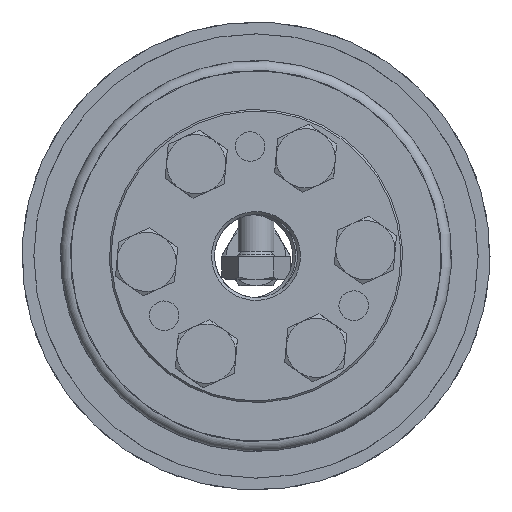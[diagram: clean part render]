
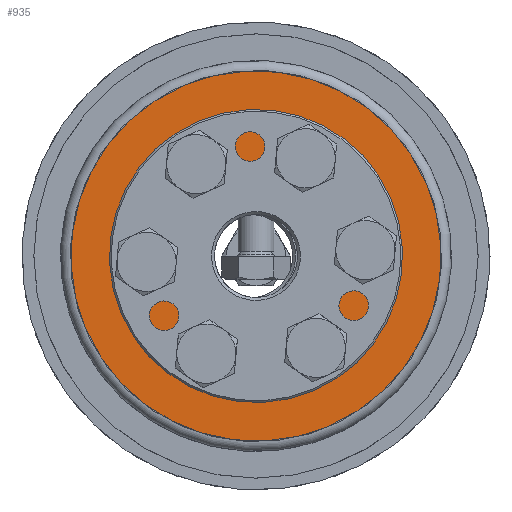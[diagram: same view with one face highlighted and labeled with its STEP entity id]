
A CAD part, left-side view. The second image highlights one B-rep face of the part: STEP entity #935.
In plain terms, the highlighted planar face has unit normal (-1, 0, 0) as drawn and (1, 0, 0) by its records, which use the part's own axes.
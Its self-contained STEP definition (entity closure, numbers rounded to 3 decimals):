
#935 = ADVANCED_FACE( 'NONE', ( #1453, #1454, #1455, #1456, #1457, #1458, #1459, #1460 ), #1461, .F. );
#1453 = FACE_OUTER_BOUND( '', #2082, .T. );
#1454 = FACE_BOUND( '', #2083, .T. );
#1455 = FACE_BOUND( '', #2084, .T. );
#1456 = FACE_BOUND( '', #2085, .T. );
#1457 = FACE_BOUND( '', #2086, .T. );
#1458 = FACE_BOUND( '', #2087, .T. );
#1459 = FACE_BOUND( '', #2088, .T. );
#1460 = FACE_BOUND( '', #2089, .T. );
#1461 = PLANE( '', #2090 );
#2082 = EDGE_LOOP( '', ( #2779 ) );
#2083 = EDGE_LOOP( '', ( #2780 ) );
#2084 = EDGE_LOOP( '', ( #2781 ) );
#2085 = EDGE_LOOP( '', ( #2782 ) );
#2086 = EDGE_LOOP( '', ( #2783 ) );
#2087 = EDGE_LOOP( '', ( #2784 ) );
#2088 = EDGE_LOOP( '', ( #2785 ) );
#2089 = EDGE_LOOP( '', ( #2786 ) );
#2090 = AXIS2_PLACEMENT_3D( '', #2787, #2788, #2789 );
#2779 = ORIENTED_EDGE( '', *, *, #3975, .F. );
#2780 = ORIENTED_EDGE( '', *, *, #3961, .F. );
#2781 = ORIENTED_EDGE( '', *, *, #3974, .T. );
#2782 = ORIENTED_EDGE( '', *, *, #3976, .F. );
#2783 = ORIENTED_EDGE( '', *, *, #3973, .F. );
#2784 = ORIENTED_EDGE( '', *, *, #3977, .F. );
#2785 = ORIENTED_EDGE( '', *, *, #3978, .F. );
#2786 = ORIENTED_EDGE( '', *, *, #3979, .F. );
#2787 = CARTESIAN_POINT( '', ( 16., 31.25, 0. ) );
#2788 = DIRECTION( '', ( -1., 0., 0. ) );
#2789 = DIRECTION( '', ( 0., 0., 1. ) );
#3961 = EDGE_CURVE( 'NONE', #4394, #4394, #4395, .T. );
#3973 = EDGE_CURVE( 'NONE', #4418, #4418, #4419, .T. );
#3974 = EDGE_CURVE( 'NONE', #4420, #4420, #4421, .T. );
#3975 = EDGE_CURVE( 'NONE', #4422, #4422, #4423, .T. );
#3976 = EDGE_CURVE( 'NONE', #4424, #4424, #4425, .T. );
#3977 = EDGE_CURVE( 'NONE', #4426, #4426, #4427, .T. );
#3978 = EDGE_CURVE( 'NONE', #4428, #4428, #4429, .T. );
#3979 = EDGE_CURVE( 'NONE', #4430, #4430, #4431, .T. );
#4394 = VERTEX_POINT( '', #4888 );
#4395 = CIRCLE( '', #4889, 3. );
#4418 = VERTEX_POINT( '', #4912 );
#4419 = CIRCLE( '', #4913, 3. );
#4420 = VERTEX_POINT( '', #4914 );
#4421 = CIRCLE( '', #4915, 15.1 );
#4422 = VERTEX_POINT( '', #4916 );
#4423 = CIRCLE( '', #4917, 31.25 );
#4424 = VERTEX_POINT( '', #4918 );
#4425 = CIRCLE( '', #4919, 3. );
#4426 = VERTEX_POINT( '', #4920 );
#4427 = CIRCLE( '', #4921, 3. );
#4428 = VERTEX_POINT( '', #4922 );
#4429 = CIRCLE( '', #4923, 3. );
#4430 = VERTEX_POINT( '', #4924 );
#4431 = CIRCLE( '', #4925, 3. );
#4888 = CARTESIAN_POINT( '', ( 16., -9.25, 13.021 ) );
#4889 = AXIS2_PLACEMENT_3D( '', #5856, #5857, #5858 );
#4912 = CARTESIAN_POINT( '', ( 16., 9.25, -19.021 ) );
#4913 = AXIS2_PLACEMENT_3D( '', #5892, #5893, #5894 );
#4914 = CARTESIAN_POINT( '', ( 16., 0., 15.1 ) );
#4915 = AXIS2_PLACEMENT_3D( '', #5895, #5896, #5897 );
#4916 = CARTESIAN_POINT( '', ( 16., 0., 31.25 ) );
#4917 = AXIS2_PLACEMENT_3D( '', #5898, #5899, #5900 );
#4918 = CARTESIAN_POINT( '', ( 16., 18.5, -3. ) );
#4919 = AXIS2_PLACEMENT_3D( '', #5901, #5902, #5903 );
#4920 = CARTESIAN_POINT( '', ( 16., -9.25, -19.021 ) );
#4921 = AXIS2_PLACEMENT_3D( '', #5904, #5905, #5906 );
#4922 = CARTESIAN_POINT( '', ( 16., -18.5, -3. ) );
#4923 = AXIS2_PLACEMENT_3D( '', #5907, #5908, #5909 );
#4924 = CARTESIAN_POINT( '', ( 16., 9.25, 13.021 ) );
#4925 = AXIS2_PLACEMENT_3D( '', #5910, #5911, #5912 );
#5856 = CARTESIAN_POINT( '', ( 16., -9.25, 16.021 ) );
#5857 = DIRECTION( '', ( 1., 0., 0. ) );
#5858 = DIRECTION( '', ( 0., 0., -1. ) );
#5892 = CARTESIAN_POINT( '', ( 16., 9.25, -16.021 ) );
#5893 = DIRECTION( '', ( 1., 0., 0. ) );
#5894 = DIRECTION( '', ( 0., 0., -1. ) );
#5895 = CARTESIAN_POINT( '', ( 16., 0., 0. ) );
#5896 = DIRECTION( '', ( -1., 0., 0. ) );
#5897 = DIRECTION( '', ( 0., 0., 1. ) );
#5898 = CARTESIAN_POINT( '', ( 16., 0., 0. ) );
#5899 = DIRECTION( '', ( -1., 0., 0. ) );
#5900 = DIRECTION( '', ( 0., 0., 1. ) );
#5901 = CARTESIAN_POINT( '', ( 16., 18.5, 0. ) );
#5902 = DIRECTION( '', ( 1., 0., 0. ) );
#5903 = DIRECTION( '', ( 0., 0., -1. ) );
#5904 = CARTESIAN_POINT( '', ( 16., -9.25, -16.021 ) );
#5905 = DIRECTION( '', ( 1., 0., 0. ) );
#5906 = DIRECTION( '', ( 0., 0., -1. ) );
#5907 = CARTESIAN_POINT( '', ( 16., -18.5, 0. ) );
#5908 = DIRECTION( '', ( 1., 0., 0. ) );
#5909 = DIRECTION( '', ( 0., 0., -1. ) );
#5910 = CARTESIAN_POINT( '', ( 16., 9.25, 16.021 ) );
#5911 = DIRECTION( '', ( 1., 0., 0. ) );
#5912 = DIRECTION( '', ( 0., 0., -1. ) );
